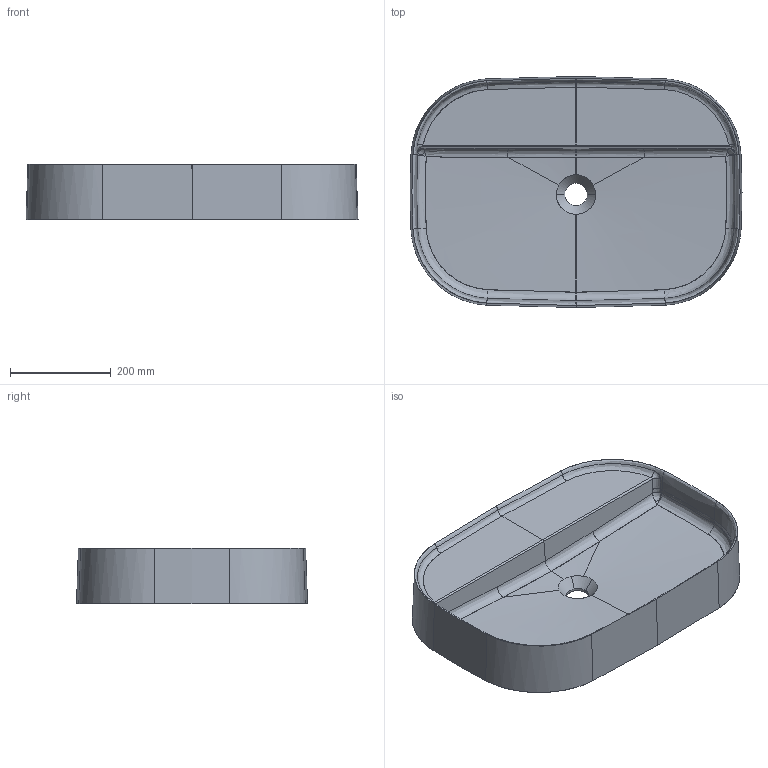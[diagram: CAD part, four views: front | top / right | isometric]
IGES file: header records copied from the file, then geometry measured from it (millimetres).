
Start section: START RECORD GO HERE.
Global section: file name: 7400_65x45 tondo.igs; native system: DASSAULT SYSTEMES CATIA V5 R19 - www.3ds.com; preprocessor: CATIA Version 5 Release 19 SP 5 ; author: gioge; organization: LAPTOP-G94B6G74; date: 20200630.143135; units: millimetre
Bounding box: 657.68 x 457.68 x 110 mm (x, y, z)
Surface area: 955396 mm2 (no closed solid volume)
Topology: 0 solids, 0 shells, 171 faces, 769 edges, 767 vertices
Faces by surface type: bspline 138, revolution 22, plane 11
